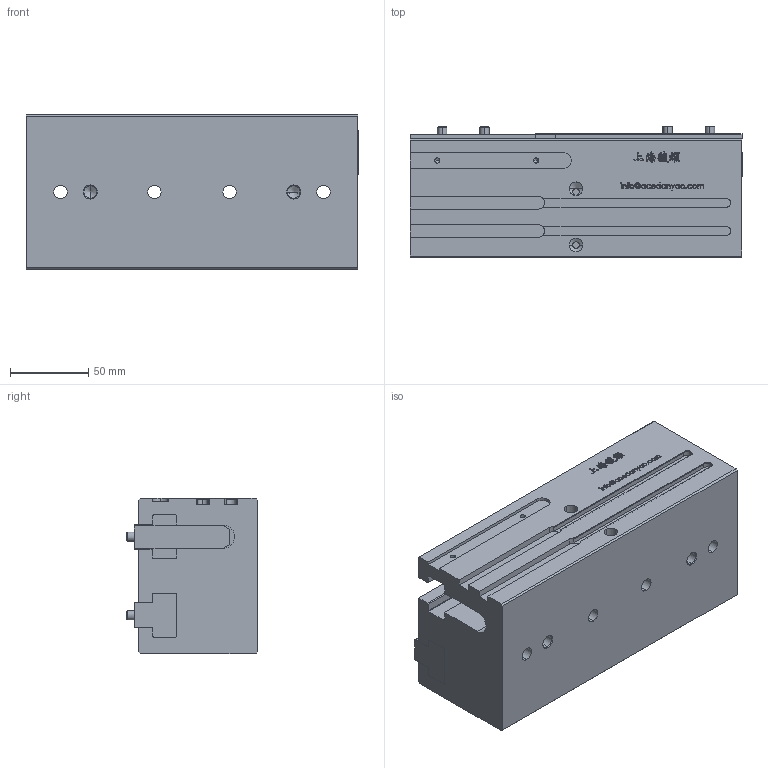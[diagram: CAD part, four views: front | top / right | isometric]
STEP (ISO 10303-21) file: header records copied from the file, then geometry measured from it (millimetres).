
FILE_DESCRIPTION (( 'STEP AP203' ), '1' );
FILE_NAME ('GPL40-80-原始檔-組合-W106.04.18.STEP', '2017-04-17T09:28:52', ( 'DanyaoCAD' ), ( '' ), 'SwSTEP 2.0', 'SolidWorks 2016', '' );
FILE_SCHEMA (( 'CONFIG_CONTROL_DESIGN' ));
Length unit declared in the file: millimetre
Products named in the file (3): Griffa; Corpo; GPL40-80-原始檔-組合-W106.04.18
Assembly tree (3 placements, depth 2):
  GPL40-80-原始檔-組合-W106.04.18
    Griffa  x2
    Corpo
Bounding box: 212 x 84 x 99 mm (x, y, z)
Volume: 1386877.6 mm3; surface area: 178822.2 mm2
Topology: 3 solids, 3 shells, 1023 faces, 2847 edges, 1876 vertices
Faces by surface type: bspline 640, plane 273, cylinder 74, cone 36
Entity records: 47730 total; most frequent: CARTESIAN_POINT 26683, ORIENTED_EDGE 5426, EDGE_CURVE 2713, DIRECTION 2259, VERTEX_POINT 1803, B_SPLINE_CURVE_WITH_KNOTS 1284, VECTOR 1281, LINE 1281
